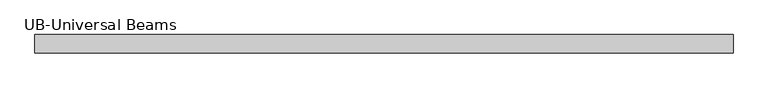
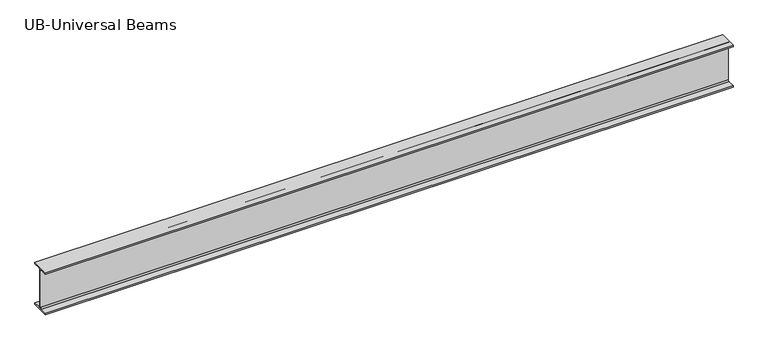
"""IFC4 building model written with IfcOpenShell, lengths in millimetres: beam geometry."""

from ifc_helpers import new_model, si_unit, point, frame, frame_2d, origin, place, context, project, spatial, polyline, circle_curve, trimmed, segment, composite_curve, outline, extrude, source, transform, mapped, element, save


def ub_universal_beams_2b7a043a(model_context):
    return source(origin(), model_context, "Body", "SweptSolid", [
        extrude(outline(composite_curve([segment(polyline([(61.7, -141.5), (61.7, -152.2), (-61.7, -152.2), (-61.7, -141.5), (-12.45, -141.5)]), True, "CONTINUOUS"), segment(trimmed(circle_curve(frame_2d((-12.45, -132.6)), 8.9), [point((-12.45, -141.5))], [point((-3.55, -132.6))], True, "CARTESIAN"), True, "CONTINUOUS"), segment(polyline([(-3.55, -132.6), (-3.55, 132.6)]), True, "CONTINUOUS"), segment(trimmed(circle_curve(frame_2d((-12.45, 132.6)), 8.9), [point((-3.55, 132.6))], [point((-12.45, 141.5))], True, "CARTESIAN"), True, "CONTINUOUS"), segment(polyline([(-12.45, 141.5), (-61.7, 141.5), (-61.7, 152.2), (61.7, 152.2), (61.7, 141.5), (12.45, 141.5)]), True, "CONTINUOUS"), segment(trimmed(circle_curve(frame_2d((12.45, 132.6)), 8.9), [point((12.45, 141.5))], [point((3.55, 132.6))], True, "CARTESIAN"), True, "CONTINUOUS"), segment(polyline([(3.55, 132.6), (3.55, -132.6)]), True, "CONTINUOUS"), segment(trimmed(circle_curve(frame_2d((12.45, -132.6)), 8.9), [point((3.55, -132.6))], [point((12.45, -141.5))], True, "CARTESIAN"), True, "CONTINUOUS"), segment(polyline([(12.45, -141.5), (61.7, -141.5)]), True, "CONTINUOUS")], self_intersect=False)), frame((-2360.4, 0.0, 0.0), z_axis=(1.0, 0.0, 0.0), x_axis=(0.0, 1.0, 0.0)), (0.0, 0.0, 1.0), 4697.7),
    ])


if __name__ == "__main__":
    model = new_model("IFC4")
    model_context = context("Model", 3, world=origin())
    ifc_project = project(units=[si_unit("LENGTHUNIT", "METRE", prefix="MILLI")], contexts=[model_context])
    site = spatial("IfcSite", under=ifc_project)
    building = spatial("IfcBuilding", under=site)
    placement = place(None, origin())
    ub_universal_beams_shape = ub_universal_beams_2b7a043a(model_context)
    element("IfcBeam", 1, ObjectType="UB-Universal Beams : UB 12\" x 5\" x 1 1/2\"", at=placement, inside=building, context=model_context, shape_type="MappedRepresentation", body=[
        mapped(ub_universal_beams_shape, transform((0.0, 0.0, 0.0), x_axis=(1.0, 0.0, 0.0), y_axis=(0.0, 1.0, 0.0), z_axis=(0.0, 0.0, 1.0))),
    ])
    save(model, "model.ifc")
